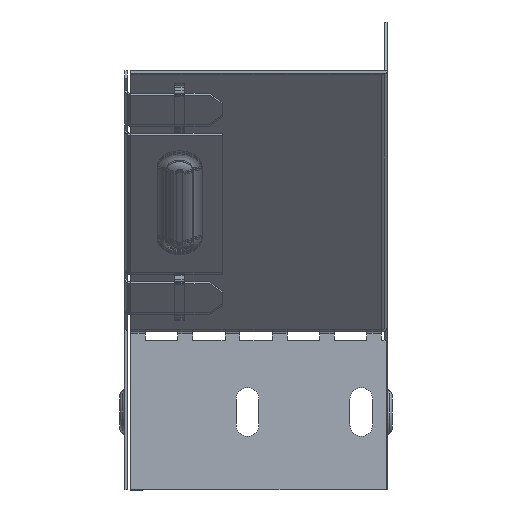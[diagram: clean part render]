
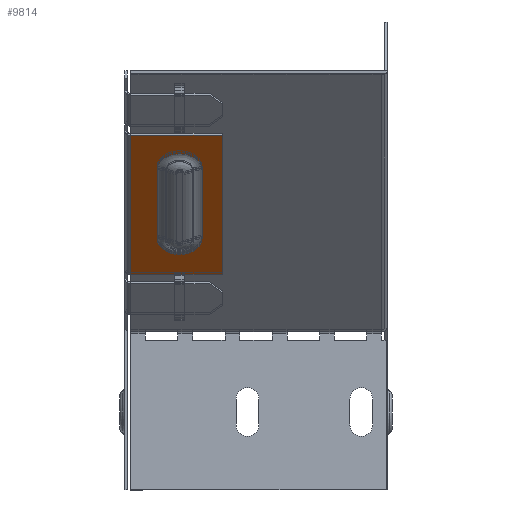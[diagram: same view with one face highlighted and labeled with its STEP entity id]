
A CAD part, left-side view. The second image highlights one B-rep face of the part: STEP entity #9814.
In plain terms, the highlighted planar face has unit normal (-0.707, 0, -0.707).
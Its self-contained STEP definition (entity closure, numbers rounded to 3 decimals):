
#1263 = VECTOR ( 'NONE', #12758, 1000. ) ;
#1453 = FACE_OUTER_BOUND ( 'NONE', #12381, .T. ) ;
#1582 = CARTESIAN_POINT ( 'NONE',  ( -269.022, 50., -77.656 ) ) ;
#1828 = EDGE_CURVE ( 'NONE', #21465, #5663, #10225, .T. ) ;
#1876 = VECTOR ( 'NONE', #10063, 1000. ) ;
#2623 = CARTESIAN_POINT ( 'NONE',  ( -279.993, 56.183, -66.685 ) ) ;
#3094 = ORIENTED_EDGE ( 'NONE', *, *, #19220, .T. ) ;
#3138 = VECTOR ( 'NONE', #4356, 1000. ) ;
#3425 = ORIENTED_EDGE ( 'NONE', *, *, #19904, .T. ) ;
#3497 = DIRECTION ( 'NONE',  ( 0.707, 0., -0.707 ) ) ;
#3619 = CARTESIAN_POINT ( 'NONE',  ( -165.837, 50., -180.841 ) ) ;
#4127 = ORIENTED_EDGE ( 'NONE', *, *, #7856, .T. ) ;
#4356 = DIRECTION ( 'NONE',  ( 0.707, 0., -0.707 ) ) ;
#4529 = CARTESIAN_POINT ( 'NONE',  ( -279.993, 63.1, -66.685 ) ) ;
#4788 = VECTOR ( 'NONE', #5522, 1000. ) ;
#4878 = CARTESIAN_POINT ( 'NONE',  ( -311.823, 78.2, -34.855 ) ) ;
#5233 = VERTEX_POINT ( 'NONE', #4878 ) ;
#5335 = CARTESIAN_POINT ( 'NONE',  ( -279.993, 56.183, -66.685 ) ) ;
#5339 = PLANE ( 'NONE',  #6929 ) ;
#5340 = CIRCLE ( 'NONE', #10386, 6.917 ) ;
#5342 = VERTEX_POINT ( 'NONE', #5335 ) ;
#5522 = DIRECTION ( 'NONE',  ( -0.707, 0., 0.707 ) ) ;
#5663 = VERTEX_POINT ( 'NONE', #20244 ) ;
#5674 = EDGE_CURVE ( 'NONE', #5342, #20678, #5340, .T. ) ;
#6259 = DIRECTION ( 'NONE',  ( 0.5, -0.707, -0.5 ) ) ;
#6929 = AXIS2_PLACEMENT_3D ( 'NONE', #10454, #15428, #3497 ) ;
#7813 = CARTESIAN_POINT ( 'NONE',  ( -301.206, 63.1, -45.472 ) ) ;
#7856 = EDGE_CURVE ( 'NONE', #8199, #5233, #8548, .T. ) ;
#8199 = VERTEX_POINT ( 'NONE', #9892 ) ;
#8255 = CARTESIAN_POINT ( 'NONE',  ( -279.993, 70.017, -66.685 ) ) ;
#8548 = LINE ( 'NONE', #19284, #1263 ) ;
#8758 = CARTESIAN_POINT ( 'NONE',  ( -279.993, 70.017, -66.685 ) ) ;
#8938 = CARTESIAN_POINT ( 'NONE',  ( -301.206, 56.183, -45.472 ) ) ;
#9182 = DIRECTION ( 'NONE',  ( -0.707, 0., 0.707 ) ) ;
#9670 = AXIS2_PLACEMENT_3D ( 'NONE', #7813, #19929, #6259 ) ;
#9814 = ADVANCED_FACE ( 'NONE', ( #12218, #1453 ), #5339, .F. ) ;
#9892 = CARTESIAN_POINT ( 'NONE',  ( -311.823, 50., -34.855 ) ) ;
#9897 = LINE ( 'NONE', #2623, #3138 ) ;
#9955 = LINE ( 'NONE', #9972, #1876 ) ;
#9972 = CARTESIAN_POINT ( 'NONE',  ( -328.087, 78.2, -18.591 ) ) ;
#10043 = CARTESIAN_POINT ( 'NONE',  ( -269.022, 78.2, -77.656 ) ) ;
#10063 = DIRECTION ( 'NONE',  ( -0.707, 0., 0.707 ) ) ;
#10225 = LINE ( 'NONE', #1582, #17781 ) ;
#10386 = AXIS2_PLACEMENT_3D ( 'NONE', #4529, #18291, #20021 ) ;
#10454 = CARTESIAN_POINT ( 'NONE',  ( -165.837, 80., -180.841 ) ) ;
#10829 = CARTESIAN_POINT ( 'NONE',  ( -301.206, 70.017, -45.472 ) ) ;
#12218 = FACE_BOUND ( 'NONE', #19889, .T. ) ;
#12381 = EDGE_LOOP ( 'NONE', ( #15056, #19167, #15906, #4127 ) ) ;
#12758 = DIRECTION ( 'NONE',  ( 0., 1., 0. ) ) ;
#12895 = VERTEX_POINT ( 'NONE', #10829 ) ;
#13939 = LINE ( 'NONE', #3619, #4788 ) ;
#14196 = EDGE_CURVE ( 'NONE', #5663, #8199, #13939, .T. ) ;
#14264 = EDGE_CURVE ( 'NONE', #20678, #12895, #15007, .T. ) ;
#14447 = VECTOR ( 'NONE', #9182, 1000. ) ;
#14771 = CIRCLE ( 'NONE', #9670, 6.917 ) ;
#15007 = LINE ( 'NONE', #8758, #14447 ) ;
#15056 = ORIENTED_EDGE ( 'NONE', *, *, #18677, .F. ) ;
#15428 = DIRECTION ( 'NONE',  ( 0.707, 0., 0.707 ) ) ;
#15906 = ORIENTED_EDGE ( 'NONE', *, *, #14196, .T. ) ;
#17781 = VECTOR ( 'NONE', #22020, 1000. ) ;
#18083 = ORIENTED_EDGE ( 'NONE', *, *, #14264, .T. ) ;
#18291 = DIRECTION ( 'NONE',  ( 0.707, 0., 0.707 ) ) ;
#18391 = VERTEX_POINT ( 'NONE', #8938 ) ;
#18677 = EDGE_CURVE ( 'NONE', #21465, #5233, #9955, .T. ) ;
#19152 = ORIENTED_EDGE ( 'NONE', *, *, #5674, .T. ) ;
#19167 = ORIENTED_EDGE ( 'NONE', *, *, #1828, .T. ) ;
#19220 = EDGE_CURVE ( 'NONE', #12895, #18391, #14771, .T. ) ;
#19284 = CARTESIAN_POINT ( 'NONE',  ( -311.823, 50., -34.855 ) ) ;
#19889 = EDGE_LOOP ( 'NONE', ( #3425, #19152, #18083, #3094 ) ) ;
#19904 = EDGE_CURVE ( 'NONE', #18391, #5342, #9897, .T. ) ;
#19929 = DIRECTION ( 'NONE',  ( 0.707, 0., 0.707 ) ) ;
#20021 = DIRECTION ( 'NONE',  ( 0.5, -0.707, -0.5 ) ) ;
#20244 = CARTESIAN_POINT ( 'NONE',  ( -269.022, 50., -77.656 ) ) ;
#20678 = VERTEX_POINT ( 'NONE', #8255 ) ;
#21465 = VERTEX_POINT ( 'NONE', #10043 ) ;
#22020 = DIRECTION ( 'NONE',  ( 0., -1., 0. ) ) ;
